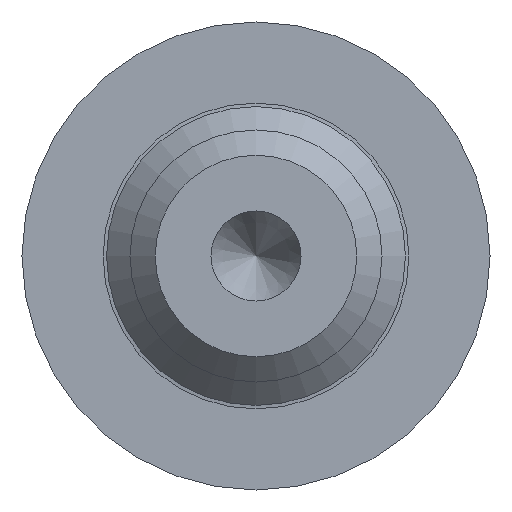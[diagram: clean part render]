
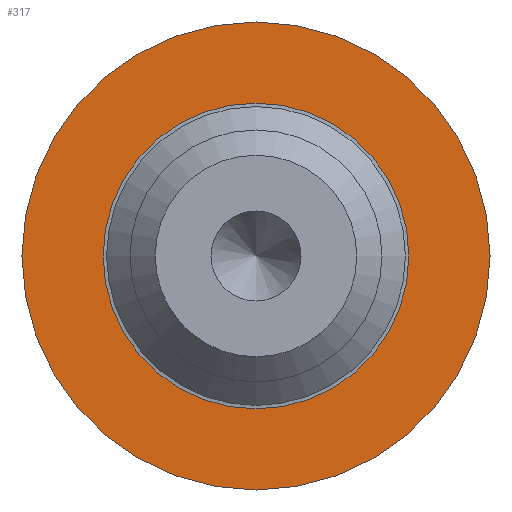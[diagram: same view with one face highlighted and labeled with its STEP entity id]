
A CAD part, front view. The second image highlights one B-rep face of the part: STEP entity #317.
In plain terms, the highlighted planar face has unit normal (0, -1, 0).
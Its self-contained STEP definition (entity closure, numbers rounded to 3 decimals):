
#17 = DIRECTION ( 'NONE',  ( 0., 0., 1. ) ) ;
#63 = DIRECTION ( 'NONE',  ( 0., 0., -1. ) ) ;
#71 = FACE_OUTER_BOUND ( 'NONE', #499, .T. ) ;
#88 = FACE_BOUND ( 'NONE', #895, .T. ) ;
#99 = CIRCLE ( 'NONE', #739, 4.247 ) ;
#102 = DIRECTION ( 'NONE',  ( 0., 1., 0. ) ) ;
#105 = CARTESIAN_POINT ( 'NONE',  ( 0., 23., 6.5 ) ) ;
#108 = ORIENTED_EDGE ( 'NONE', *, *, #805, .F. ) ;
#239 = CARTESIAN_POINT ( 'NONE',  ( 0., 23., 0. ) ) ;
#256 = CIRCLE ( 'NONE', #303, 6.5 ) ;
#303 = AXIS2_PLACEMENT_3D ( 'NONE', #239, #102, #17 ) ;
#317 = ADVANCED_FACE ( 'NONE', ( #71, #88 ), #847, .F. ) ;
#339 = DIRECTION ( 'NONE',  ( 0., -1., 0. ) ) ;
#359 = DIRECTION ( 'NONE',  ( 0., 1., 0. ) ) ;
#427 = CARTESIAN_POINT ( 'NONE',  ( 0., 23., 0. ) ) ;
#446 = CARTESIAN_POINT ( 'NONE',  ( 0., 23., -4.247 ) ) ;
#489 = EDGE_CURVE ( 'NONE', #595, #595, #256, .T. ) ;
#499 = EDGE_LOOP ( 'NONE', ( #748 ) ) ;
#595 = VERTEX_POINT ( 'NONE', #105 ) ;
#657 = DIRECTION ( 'NONE',  ( 0., 0., 1. ) ) ;
#739 = AXIS2_PLACEMENT_3D ( 'NONE', #427, #339, #63 ) ;
#748 = ORIENTED_EDGE ( 'NONE', *, *, #489, .F. ) ;
#786 = CARTESIAN_POINT ( 'NONE',  ( 4.15, 23., 0. ) ) ;
#797 = VERTEX_POINT ( 'NONE', #446 ) ;
#805 = EDGE_CURVE ( 'NONE', #797, #797, #99, .T. ) ;
#847 = PLANE ( 'NONE',  #868 ) ;
#868 = AXIS2_PLACEMENT_3D ( 'NONE', #786, #359, #657 ) ;
#895 = EDGE_LOOP ( 'NONE', ( #108 ) ) ;
